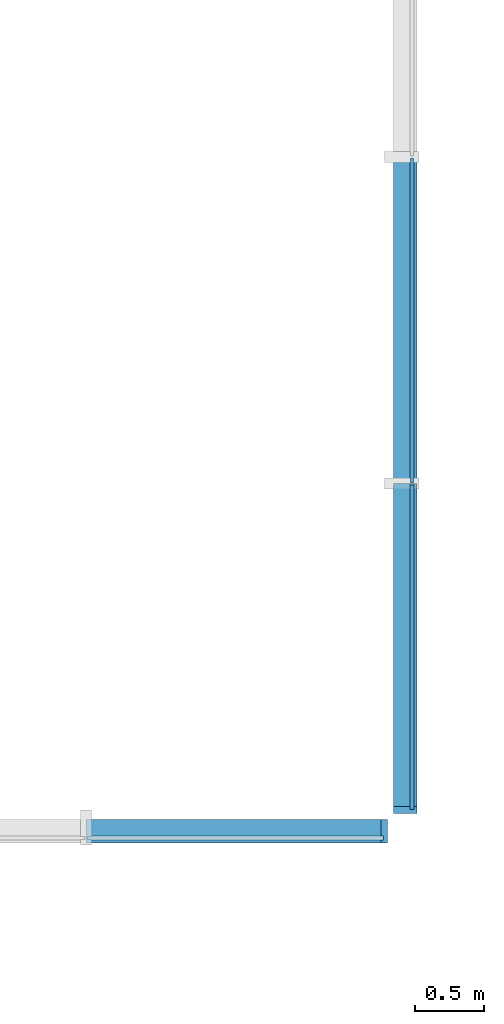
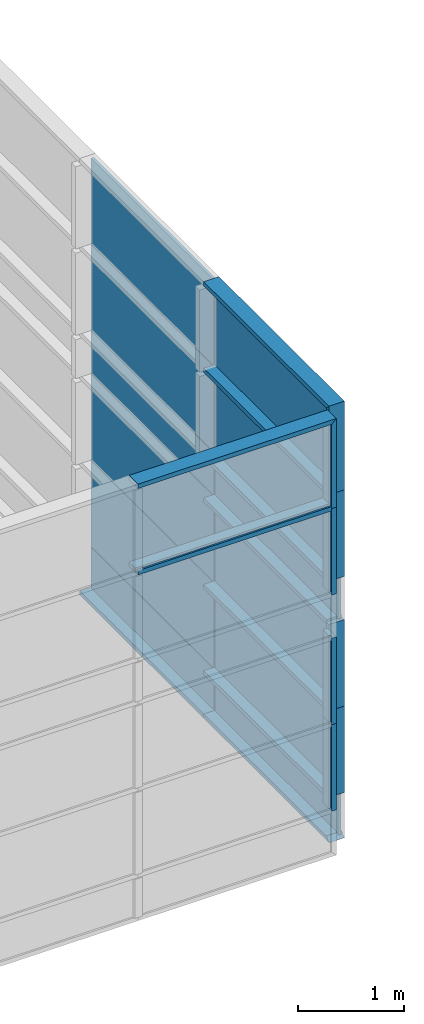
# One storey, part 7 of 19: 30 building element parts, 2 elements without a shape of their own.
"""IFC4 building model written with IfcOpenShell, lengths in millimetres."""

from ifc_helpers import new_model, entity, si_unit, converted_unit, derived_unit, direction, frame, origin_with_axes, place, context, subcontext, project, spatial, triangles, material, element, aggregate, save


model = new_model("IFC4")

# Units and contexts
model_context = context("Model", 3, precision=1e-05, world=origin_with_axes(), true_north=direction((0.0, 1.0)))
body_context = subcontext(model_context, "Body", "Model", "MODEL_VIEW")
ifc_project = project(units=[si_unit("LENGTHUNIT", "METRE", prefix="MILLI"), si_unit("AREAUNIT", "SQUARE_METRE"), si_unit("VOLUMEUNIT", "CUBIC_METRE"), converted_unit("PLANEANGLEUNIT", "DEGREE", entity("IfcLengthMeasure", 0.017453), si_unit("PLANEANGLEUNIT", "RADIAN"), dimensions=[0, 0, 0, 0, 0, 0, 0]), si_unit("SOLIDANGLEUNIT", "STERADIAN"), si_unit("MASSUNIT", "GRAM"), si_unit("TIMEUNIT", "SECOND"), si_unit("THERMODYNAMICTEMPERATUREUNIT", "DEGREE_CELSIUS"), si_unit("LUMINOUSINTENSITYUNIT", "LUMEN"), si_unit("POWERUNIT", "WATT"), derived_unit("THERMALTRANSMITTANCEUNIT", [(si_unit("POWERUNIT", "WATT"), 1), (si_unit("THERMODYNAMICTEMPERATUREUNIT", "KELVIN"), -1), (si_unit("AREAUNIT", "SQUARE_METRE"), -1)])], contexts=[model_context])

# Site, building, storey
site_placement = place(None, origin_with_axes())
site = spatial("IfcSite", under=ifc_project, at=site_placement, Name="Default Site", CompositionType="ELEMENT")
building_placement = place(site_placement, origin_with_axes())
building = spatial("IfcBuilding", under=site, at=building_placement, Name="Default Building", CompositionType="ELEMENT")
storey_placement = place(building_placement, frame((0.0, 0.0, 3000.0), z_axis=(0.0, 0.0, 1.0), x_axis=(1.0, 0.0, 0.0)))
storey = spatial("IfcBuildingStorey", under=building, at=storey_placement, Name="EG - Story", CompositionType="ELEMENT", Elevation=3000.0)

# Curtain wall, building element parts
curtain_wall_1_placement = place(storey_placement, origin_with_axes())
curtain_wall_1 = element("IfcCurtainWall", 1, at=curtain_wall_1_placement, inside=storey, Name="Fassade-008", PredefinedType="NOTDEFINED")
ifc_material_1 = material(Name="Normalglas")
building_element_part_1_placement = place(curtain_wall_1_placement, frame((76219.438321, -43896.324358, 0.0), z_axis=(0.0, 0.0, 1.0), x_axis=(1.0, 0.0, 0.0)))
building_element_part_1 = element("IfcBuildingElementPart", 2, at=building_element_part_1_placement, material=ifc_material_1, Name="Normalglas", PredefinedType="NOTDEFINED", context=body_context, shape_type="Tessellation", body=[
    triangles([(-14.999, -3515.973, 495.0), (15.0, -3515.973, 495.0), (15.0, -1185.324, 495.0), (-14.999, -1185.324, 495.0), (-14.999, -3515.973, 5.0), (15.0, -3515.973, 5.0), (15.0, -1185.324, 5.0), (-14.999, -1185.324, 5.0)], [[1, 2, 3], [1, 3, 4], [5, 6, 2], [5, 2, 1], [2, 6, 7], [2, 7, 3], [4, 3, 7], [4, 7, 8], [1, 4, 8], [1, 8, 5], [8, 7, 6], [8, 6, 5]], closed=False),
])
building_element_part_2_placement = place(curtain_wall_1_placement, frame((76219.438321, -43896.324358, 0.0), z_axis=(0.0, 0.0, 1.0), x_axis=(1.0, 0.0, 0.0)))
building_element_part_2 = element("IfcBuildingElementPart", 3, at=building_element_part_2_placement, material=ifc_material_1, Name="Normalglas", PredefinedType="NOTDEFINED", context=body_context, shape_type="Tessellation", body=[
    triangles([(-14.999, -5871.623, 495.0), (15.0, -5871.623, 495.0), (15.0, -3535.973, 495.0), (-14.999, -3535.973, 495.0), (-14.999, -5871.623, 5.0), (15.0, -5871.623, 5.0), (15.0, -3535.973, 5.0), (-14.999, -3535.973, 5.0)], [[1, 2, 3], [1, 3, 4], [5, 6, 2], [5, 2, 1], [2, 6, 7], [2, 7, 3], [4, 3, 7], [4, 7, 8], [1, 4, 8], [1, 8, 5], [8, 7, 6], [8, 6, 5]], closed=False),
])
building_element_part_3_placement = place(curtain_wall_1_placement, frame((76219.438321, -43896.324358, 0.0), z_axis=(0.0, 0.0, 1.0), x_axis=(1.0, 0.0, 0.0)))
building_element_part_3 = element("IfcBuildingElementPart", 4, at=building_element_part_3_placement, material=ifc_material_1, Name="Normalglas", PredefinedType="NOTDEFINED", context=body_context, shape_type="Tessellation", body=[
    triangles([(-14.999, -3515.973, 1495.0), (15.0, -3515.973, 1495.0), (15.0, -1185.324, 1495.0), (-14.999, -1185.324, 1495.0), (-14.999, -3515.973, 505.0), (15.0, -3515.973, 505.0), (15.0, -1185.324, 505.0), (-14.999, -1185.324, 505.0)], [[1, 2, 3], [1, 3, 4], [5, 6, 2], [5, 2, 1], [2, 6, 7], [2, 7, 3], [4, 3, 7], [4, 7, 8], [1, 4, 8], [1, 8, 5], [8, 7, 6], [8, 6, 5]], closed=False),
])
building_element_part_4_placement = place(curtain_wall_1_placement, frame((76219.438321, -43896.324358, 0.0), z_axis=(0.0, 0.0, 1.0), x_axis=(1.0, 0.0, 0.0)))
building_element_part_4 = element("IfcBuildingElementPart", 5, at=building_element_part_4_placement, material=ifc_material_1, Name="Normalglas", PredefinedType="NOTDEFINED", context=body_context, shape_type="Tessellation", body=[
    triangles([(-14.999, -5871.623, 1495.0), (15.0, -5871.623, 1495.0), (15.0, -3535.973, 1495.0), (-14.999, -3535.973, 1495.0), (-14.999, -5871.623, 505.0), (15.0, -5871.623, 505.0), (15.0, -3535.973, 505.0), (-14.999, -3535.973, 505.0)], [[1, 2, 3], [1, 3, 4], [5, 6, 2], [5, 2, 1], [2, 6, 7], [2, 7, 3], [4, 3, 7], [4, 7, 8], [1, 4, 8], [1, 8, 5], [8, 7, 6], [8, 6, 5]], closed=False),
])
building_element_part_5_placement = place(curtain_wall_1_placement, frame((76219.438321, -43896.324358, 0.0), z_axis=(0.0, 0.0, 1.0), x_axis=(1.0, 0.0, 0.0)))
building_element_part_5 = element("IfcBuildingElementPart", 6, at=building_element_part_5_placement, material=ifc_material_1, Name="Normalglas", PredefinedType="NOTDEFINED", context=body_context, shape_type="Tessellation", body=[
    triangles([(-14.999, -3515.973, 2495.0), (15.0, -3515.973, 2495.0), (15.0, -1185.324, 2495.0), (-14.999, -1185.324, 2495.0), (-14.999, -3515.973, 1505.0), (15.0, -3515.973, 1505.0), (15.0, -1185.324, 1505.0), (-14.999, -1185.324, 1505.0)], [[1, 2, 3], [1, 3, 4], [5, 6, 2], [5, 2, 1], [2, 6, 7], [2, 7, 3], [4, 3, 7], [4, 7, 8], [1, 4, 8], [1, 8, 5], [8, 7, 6], [8, 6, 5]], closed=False),
])
building_element_part_6_placement = place(curtain_wall_1_placement, frame((76219.438321, -43896.324358, 0.0), z_axis=(0.0, 0.0, 1.0), x_axis=(1.0, 0.0, 0.0)))
building_element_part_6 = element("IfcBuildingElementPart", 7, at=building_element_part_6_placement, material=ifc_material_1, Name="Normalglas", PredefinedType="NOTDEFINED", context=body_context, shape_type="Tessellation", body=[
    triangles([(-14.999, -5871.623, 2495.0), (15.0, -5871.623, 2495.0), (15.0, -3535.973, 2495.0), (-14.999, -3535.973, 2495.0), (-14.999, -5871.623, 1505.0), (15.0, -5871.623, 1505.0), (15.0, -3535.973, 1505.0), (-14.999, -3535.973, 1505.0)], [[1, 2, 3], [1, 3, 4], [5, 6, 2], [5, 2, 1], [2, 6, 7], [2, 7, 3], [4, 3, 7], [4, 7, 8], [1, 4, 8], [1, 8, 5], [8, 7, 6], [8, 6, 5]], closed=False),
])
building_element_part_7_placement = place(curtain_wall_1_placement, frame((76219.438321, -43896.324358, 0.0), z_axis=(0.0, 0.0, 1.0), x_axis=(1.0, 0.0, 0.0)))
building_element_part_7 = element("IfcBuildingElementPart", 8, at=building_element_part_7_placement, material=ifc_material_1, Name="Normalglas", PredefinedType="NOTDEFINED", context=body_context, shape_type="Tessellation", body=[
    triangles([(-14.999, -3515.973, 2995.0), (15.0, -3515.973, 2995.0), (15.0, -1185.324, 2995.0), (-14.999, -1185.324, 2995.0), (-14.999, -3515.973, 2505.0), (15.0, -3515.973, 2505.0), (15.0, -1185.324, 2505.0), (-14.999, -1185.324, 2505.0)], [[1, 2, 3], [1, 3, 4], [5, 6, 2], [5, 2, 1], [2, 6, 7], [2, 7, 3], [4, 3, 7], [4, 7, 8], [1, 4, 8], [1, 8, 5], [8, 7, 6], [8, 6, 5]], closed=False),
])
building_element_part_8_placement = place(curtain_wall_1_placement, frame((76219.438321, -43896.324358, 0.0), z_axis=(0.0, 0.0, 1.0), x_axis=(1.0, 0.0, 0.0)))
building_element_part_8 = element("IfcBuildingElementPart", 9, at=building_element_part_8_placement, material=ifc_material_1, Name="Normalglas", PredefinedType="NOTDEFINED", context=body_context, shape_type="Tessellation", body=[
    triangles([(-14.999, -5871.623, 2995.0), (15.0, -5871.623, 2995.0), (15.0, -3535.973, 2995.0), (-14.999, -3535.973, 2995.0), (-14.999, -5871.623, 2505.0), (15.0, -5871.623, 2505.0), (15.0, -3535.973, 2505.0), (-14.999, -3535.973, 2505.0)], [[1, 2, 3], [1, 3, 4], [5, 6, 2], [5, 2, 1], [2, 6, 7], [2, 7, 3], [4, 3, 7], [4, 7, 8], [1, 4, 8], [1, 8, 5], [8, 7, 6], [8, 6, 5]], closed=False),
])
building_element_part_9_placement = place(curtain_wall_1_placement, frame((76219.438321, -43896.324358, 0.0), z_axis=(0.0, 0.0, 1.0), x_axis=(1.0, 0.0, 0.0)))
building_element_part_9 = element("IfcBuildingElementPart", 10, at=building_element_part_9_placement, material=ifc_material_1, Name="Normalglas", PredefinedType="NOTDEFINED", context=body_context, shape_type="Tessellation", body=[
    triangles([(-14.999, -3515.973, 3995.0), (15.0, -3515.973, 3995.0), (15.0, -1185.324, 3995.0), (-14.999, -1185.324, 3995.0), (-14.999, -3515.973, 3005.0), (15.0, -3515.973, 3005.0), (15.0, -1185.324, 3005.0), (-14.999, -1185.324, 3005.0)], [[1, 2, 3], [1, 3, 4], [5, 6, 2], [5, 2, 1], [2, 6, 7], [2, 7, 3], [4, 3, 7], [4, 7, 8], [1, 4, 8], [1, 8, 5], [8, 7, 6], [8, 6, 5]], closed=False),
])
building_element_part_10_placement = place(curtain_wall_1_placement, frame((76219.438321, -43896.324358, 0.0), z_axis=(0.0, 0.0, 1.0), x_axis=(1.0, 0.0, 0.0)))
building_element_part_10 = element("IfcBuildingElementPart", 11, at=building_element_part_10_placement, material=ifc_material_1, Name="Normalglas", PredefinedType="NOTDEFINED", context=body_context, shape_type="Tessellation", body=[
    triangles([(-14.999, -3515.973, 4995.0), (15.0, -3515.973, 4995.0), (15.0, -1185.324, 4995.0), (-14.999, -1185.324, 4995.0), (-14.999, -3515.973, 4005.0), (15.0, -3515.973, 4005.0), (15.0, -1185.324, 4005.0), (-14.999, -1185.324, 4005.0)], [[1, 2, 3], [1, 3, 4], [5, 6, 2], [5, 2, 1], [2, 6, 7], [2, 7, 3], [4, 3, 7], [4, 7, 8], [1, 4, 8], [1, 8, 5], [8, 7, 6], [8, 6, 5]], closed=False),
])
building_element_part_11_placement = place(curtain_wall_1_placement, frame((76219.438321, -43896.324358, 0.0), z_axis=(0.0, 0.0, 1.0), x_axis=(1.0, 0.0, 0.0)))
building_element_part_11 = element("IfcBuildingElementPart", 12, at=building_element_part_11_placement, material=ifc_material_1, Name="Normalglas", PredefinedType="NOTDEFINED", context=body_context, shape_type="Tessellation", body=[
    triangles([(-14.999, -5871.623, 3995.0), (15.0, -5871.623, 3995.0), (15.0, -3535.973, 3995.0), (-14.999, -3535.973, 3995.0), (-14.999, -5871.623, 3005.0), (15.0, -5871.623, 3005.0), (15.0, -3535.973, 3005.0), (-14.999, -3535.973, 3005.0)], [[1, 2, 3], [1, 3, 4], [5, 6, 2], [5, 2, 1], [2, 6, 7], [2, 7, 3], [4, 3, 7], [4, 7, 8], [1, 4, 8], [1, 8, 5], [8, 7, 6], [8, 6, 5]], closed=False),
])
building_element_part_12_placement = place(curtain_wall_1_placement, frame((76219.438321, -43896.324358, 0.0), z_axis=(0.0, 0.0, 1.0), x_axis=(1.0, 0.0, 0.0)))
building_element_part_12 = element("IfcBuildingElementPart", 13, at=building_element_part_12_placement, material=ifc_material_1, Name="Normalglas", PredefinedType="NOTDEFINED", context=body_context, shape_type="Tessellation", body=[
    triangles([(-14.999, -5871.623, 4995.0), (15.0, -5871.623, 4995.0), (15.0, -3535.973, 4995.0), (-14.999, -3535.973, 4995.0), (-14.999, -5871.623, 4005.0), (15.0, -5871.623, 4005.0), (15.0, -3535.973, 4005.0), (-14.999, -3535.973, 4005.0)], [[1, 2, 3], [1, 3, 4], [5, 6, 2], [5, 2, 1], [2, 6, 7], [2, 7, 3], [4, 3, 7], [4, 7, 8], [1, 4, 8], [1, 8, 5], [8, 7, 6], [8, 6, 5]], closed=False),
])
ifc_material_2 = material(Name="Blech")
building_element_part_13_placement = place(curtain_wall_1_placement, frame((76219.438321, -43896.324358, 0.0), z_axis=(0.0, 0.0, 1.0), x_axis=(1.0, 0.0, 0.0)))
building_element_part_13 = element("IfcBuildingElementPart", 14, at=building_element_part_13_placement, material=ifc_material_2, Name="Blech", PredefinedType="NOTDEFINED", context=body_context, shape_type="Tessellation", body=[
    triangles([(-14.999, -3525.973, 25.0), (-132.999, -3525.973, 25.0), (-14.999, -3525.973, 5.0), (-132.999, -3525.973, -24.999), (15.0, -3525.973, 5.0), (35.0, -3525.973, -24.999), (35.0, -3525.973, 25.0), (15.0, -3525.973, 25.0), (-14.999, -1175.324, 5.0), (-14.999, -1175.324, 25.0), (-132.999, -1175.324, 25.0), (-132.999, -1175.324, -24.999), (35.0, -1175.324, -24.999), (35.0, -1175.324, 25.0), (15.0, -1175.324, 25.0), (15.0, -1175.324, 5.0)], [[1, 2, 3], [3, 2, 4], [3, 4, 5], [5, 4, 6], [5, 6, 7], [5, 7, 8], [3, 9, 10], [3, 10, 1], [10, 11, 2], [10, 2, 1], [11, 12, 4], [11, 4, 2], [12, 13, 6], [12, 6, 4], [13, 14, 7], [13, 7, 6], [8, 7, 14], [8, 14, 15], [15, 16, 5], [15, 5, 8], [5, 16, 9], [5, 9, 3], [16, 9, 12], [16, 12, 13], [16, 13, 14], [16, 14, 15], [11, 12, 9], [11, 9, 10]], closed=False),
])
building_element_part_14_placement = place(curtain_wall_1_placement, frame((76219.438321, -43896.324358, 0.0), z_axis=(0.0, 0.0, 1.0), x_axis=(1.0, 0.0, 0.0)))
building_element_part_14 = element("IfcBuildingElementPart", 15, at=building_element_part_14_placement, material=ifc_material_2, Name="Blech", PredefinedType="NOTDEFINED", context=body_context, shape_type="Tessellation", body=[
    triangles([(-14.999, -5851.623, 25.0), (-132.999, -5851.623, 25.0), (-14.999, -5871.623, 5.0), (-132.999, -5901.623, -24.999), (15.0, -5871.623, 5.0), (35.0, -5901.623, -24.999), (35.0, -5851.623, 25.0), (15.0, -5851.623, 25.0), (-14.999, -3525.973, 5.0), (-14.999, -3525.973, 25.0), (-132.999, -3525.973, 25.0), (-132.999, -3525.973, -24.999), (35.0, -3525.973, -24.999), (35.0, -3525.973, 25.0), (15.0, -3525.973, 25.0), (15.0, -3525.973, 5.0)], [[1, 2, 3], [3, 2, 4], [3, 4, 5], [5, 4, 6], [5, 6, 7], [5, 7, 8], [3, 9, 10], [3, 10, 1], [10, 11, 2], [10, 2, 1], [11, 12, 4], [11, 4, 2], [12, 13, 6], [12, 6, 4], [13, 14, 7], [13, 7, 6], [8, 7, 14], [8, 14, 15], [15, 16, 5], [15, 5, 8], [5, 16, 9], [5, 9, 3], [16, 9, 12], [16, 12, 13], [16, 13, 14], [16, 14, 15], [11, 12, 9], [11, 9, 10]], closed=False),
])
building_element_part_15_placement = place(curtain_wall_1_placement, frame((76219.438321, -43896.324358, 0.0), z_axis=(0.0, 0.0, 1.0), x_axis=(1.0, 0.0, 0.0)))
building_element_part_15 = element("IfcBuildingElementPart", 16, at=building_element_part_15_placement, material=ifc_material_2, Name="Blech", PredefinedType="NOTDEFINED", context=body_context, shape_type="Tessellation", body=[
    triangles([(15.0, -5851.623, 525.0), (35.0, -5851.623, 525.0), (15.0, -5851.623, 505.0), (15.0, -5851.623, 495.0), (-14.999, -5851.623, 505.0), (-132.999, -5851.623, 525.0), (-14.999, -5851.623, 525.0), (35.0, -5851.623, 475.0), (15.0, -5851.623, 475.0), (-14.999, -5851.623, 495.0), (-14.999, -5851.623, 475.0), (-132.999, -5851.623, 475.0), (-14.999, -3525.973, 495.0), (15.0, -3525.973, 495.0), (15.0, -3525.973, 475.0), (35.0, -3525.973, 475.0), (35.0, -3525.973, 525.0), (15.0, -3525.973, 525.0), (15.0, -3525.973, 505.0), (-14.999, -3525.973, 505.0), (-14.999, -3525.973, 525.0), (-132.999, -3525.973, 525.0), (-132.999, -3525.973, 475.0), (-14.999, -3525.973, 475.0)], [[1, 2, 3], [3, 2, 4], [3, 4, 5], [5, 4, 6], [5, 6, 7], [8, 9, 4], [8, 4, 2], [6, 4, 10], [6, 10, 11], [6, 11, 12], [10, 13, 14], [10, 14, 4], [4, 14, 15], [4, 15, 9], [15, 16, 8], [15, 8, 9], [8, 16, 17], [8, 17, 2], [18, 1, 2], [18, 2, 17], [1, 18, 19], [1, 19, 3], [5, 3, 19], [5, 19, 20], [7, 5, 20], [7, 20, 21], [7, 21, 22], [7, 22, 6], [6, 22, 23], [6, 23, 12], [11, 12, 23], [11, 23, 24], [11, 24, 13], [11, 13, 10], [21, 22, 20], [20, 22, 13], [20, 13, 19], [19, 13, 14], [19, 14, 17], [17, 14, 15], [17, 15, 16], [23, 24, 13], [23, 13, 22], [19, 17, 18]], closed=False),
])
building_element_part_16_placement = place(curtain_wall_1_placement, frame((76219.438321, -43896.324358, 0.0), z_axis=(0.0, 0.0, 1.0), x_axis=(1.0, 0.0, 0.0)))
building_element_part_16 = element("IfcBuildingElementPart", 17, at=building_element_part_16_placement, material=ifc_material_2, Name="Blech", PredefinedType="NOTDEFINED", context=body_context, shape_type="Tessellation", body=[
    triangles([(35.0, -5901.623, 1500.0), (35.0, -5851.623, 1500.0), (15.0, -5851.623, 1500.0), (15.0, -5871.623, 1500.0), (-14.999, -5871.623, 1500.0), (-132.999, -5851.623, 1500.0), (-132.999, -5901.623, 1500.0), (-14.999, -5851.623, 1500.0), (-14.999, -5871.623, 500.0), (-14.999, -5851.623, 500.0), (-132.999, -5851.623, 500.0), (-132.999, -5901.623, 500.0), (35.0, -5901.623, 500.0), (35.0, -5851.623, 500.0), (15.0, -5851.623, 500.0), (15.0, -5871.623, 500.0)], [[1, 2, 3], [1, 3, 4], [1, 4, 5], [1, 5, 6], [1, 6, 7], [8, 6, 5], [5, 9, 10], [5, 10, 8], [10, 11, 6], [10, 6, 8], [11, 12, 7], [11, 7, 6], [12, 13, 1], [12, 1, 7], [13, 14, 2], [13, 2, 1], [3, 2, 14], [3, 14, 15], [15, 16, 4], [15, 4, 3], [4, 16, 9], [4, 9, 5], [15, 16, 13], [13, 16, 9], [13, 9, 11], [11, 9, 10], [13, 11, 12], [15, 13, 14]], closed=False),
])
building_element_part_17_placement = place(curtain_wall_1_placement, frame((76219.438321, -43896.324358, 0.0), z_axis=(0.0, 0.0, 1.0), x_axis=(1.0, 0.0, 0.0)))
building_element_part_17 = element("IfcBuildingElementPart", 18, at=building_element_part_17_placement, material=ifc_material_2, Name="Blech", PredefinedType="NOTDEFINED", context=body_context, shape_type="Tessellation", body=[
    triangles([(15.0, -5851.623, 1525.0), (35.0, -5851.623, 1525.0), (15.0, -5851.623, 1505.0), (15.0, -5851.623, 1495.0), (-14.999, -5851.623, 1505.0), (-132.999, -5851.623, 1525.0), (-14.999, -5851.623, 1525.0), (35.0, -5851.623, 1475.0), (15.0, -5851.623, 1475.0), (-14.999, -5851.623, 1495.0), (-14.999, -5851.623, 1475.0), (-132.999, -5851.623, 1475.0), (-14.999, -3525.973, 1495.0), (15.0, -3525.973, 1495.0), (15.0, -3525.973, 1475.0), (35.0, -3525.973, 1475.0), (35.0, -3525.973, 1525.0), (15.0, -3525.973, 1525.0), (15.0, -3525.973, 1505.0), (-14.999, -3525.973, 1505.0), (-14.999, -3525.973, 1525.0), (-132.999, -3525.973, 1525.0), (-132.999, -3525.973, 1475.0), (-14.999, -3525.973, 1475.0)], [[1, 2, 3], [3, 2, 4], [3, 4, 5], [5, 4, 6], [5, 6, 7], [8, 9, 4], [8, 4, 2], [6, 4, 10], [6, 10, 11], [6, 11, 12], [10, 13, 14], [10, 14, 4], [4, 14, 15], [4, 15, 9], [15, 16, 8], [15, 8, 9], [8, 16, 17], [8, 17, 2], [18, 1, 2], [18, 2, 17], [1, 18, 19], [1, 19, 3], [5, 3, 19], [5, 19, 20], [7, 5, 20], [7, 20, 21], [7, 21, 22], [7, 22, 6], [6, 22, 23], [6, 23, 12], [11, 12, 23], [11, 23, 24], [11, 24, 13], [11, 13, 10], [21, 22, 20], [20, 22, 13], [20, 13, 19], [19, 13, 14], [19, 14, 17], [17, 14, 15], [17, 15, 16], [23, 24, 13], [23, 13, 22], [19, 17, 18]], closed=False),
])
building_element_part_18_placement = place(curtain_wall_1_placement, frame((76219.438321, -43896.324358, 0.0), z_axis=(0.0, 0.0, 1.0), x_axis=(1.0, 0.0, 0.0)))
building_element_part_18 = element("IfcBuildingElementPart", 19, at=building_element_part_18_placement, material=ifc_material_2, Name="Blech", PredefinedType="NOTDEFINED", context=body_context, shape_type="Tessellation", body=[
    triangles([(35.0, -5901.623, 2500.0), (35.0, -5851.623, 2500.0), (15.0, -5851.623, 2500.0), (15.0, -5871.623, 2500.0), (-14.999, -5871.623, 2500.0), (-132.999, -5851.623, 2500.0), (-132.999, -5901.623, 2500.0), (-14.999, -5851.623, 2500.0), (-14.999, -5871.623, 1500.0), (-14.999, -5851.623, 1500.0), (-132.999, -5851.623, 1500.0), (-132.999, -5901.623, 1500.0), (35.0, -5901.623, 1500.0), (35.0, -5851.623, 1500.0), (15.0, -5851.623, 1500.0), (15.0, -5871.623, 1500.0)], [[1, 2, 3], [1, 3, 4], [1, 4, 5], [1, 5, 6], [1, 6, 7], [8, 6, 5], [5, 9, 10], [5, 10, 8], [10, 11, 6], [10, 6, 8], [11, 12, 7], [11, 7, 6], [12, 13, 1], [12, 1, 7], [13, 14, 2], [13, 2, 1], [3, 2, 14], [3, 14, 15], [15, 16, 4], [15, 4, 3], [4, 16, 9], [4, 9, 5], [15, 16, 13], [13, 16, 9], [13, 9, 11], [11, 9, 10], [13, 11, 12], [15, 13, 14]], closed=False),
])
building_element_part_19_placement = place(curtain_wall_1_placement, frame((76219.438321, -43896.324358, 0.0), z_axis=(0.0, 0.0, 1.0), x_axis=(1.0, 0.0, 0.0)))
building_element_part_19 = element("IfcBuildingElementPart", 20, at=building_element_part_19_placement, material=ifc_material_2, Name="Blech", PredefinedType="NOTDEFINED", context=body_context, shape_type="Tessellation", body=[
    triangles([(15.0, -5851.623, 2525.0), (35.0, -5851.623, 2525.0), (15.0, -5851.623, 2505.0), (15.0, -5851.623, 2495.0), (-14.999, -5851.623, 2505.0), (-132.999, -5851.623, 2525.0), (-14.999, -5851.623, 2525.0), (35.0, -5851.623, 2475.0), (15.0, -5851.623, 2475.0), (-14.999, -5851.623, 2495.0), (-14.999, -5851.623, 2475.0), (-132.999, -5851.623, 2475.0), (-14.999, -3525.973, 2495.0), (15.0, -3525.973, 2495.0), (15.0, -3525.973, 2475.0), (35.0, -3525.973, 2475.0), (35.0, -3525.973, 2525.0), (15.0, -3525.973, 2525.0), (15.0, -3525.973, 2505.0), (-14.999, -3525.973, 2505.0), (-14.999, -3525.973, 2525.0), (-132.999, -3525.973, 2525.0), (-132.999, -3525.973, 2475.0), (-14.999, -3525.973, 2475.0)], [[1, 2, 3], [3, 2, 4], [3, 4, 5], [5, 4, 6], [5, 6, 7], [8, 9, 4], [8, 4, 2], [6, 4, 10], [6, 10, 11], [6, 11, 12], [10, 13, 14], [10, 14, 4], [4, 14, 15], [4, 15, 9], [15, 16, 8], [15, 8, 9], [8, 16, 17], [8, 17, 2], [18, 1, 2], [18, 2, 17], [1, 18, 19], [1, 19, 3], [5, 3, 19], [5, 19, 20], [7, 5, 20], [7, 20, 21], [7, 21, 22], [7, 22, 6], [6, 22, 23], [6, 23, 12], [11, 12, 23], [11, 23, 24], [11, 24, 13], [11, 13, 10], [21, 22, 20], [20, 22, 13], [20, 13, 19], [19, 13, 14], [19, 14, 17], [17, 14, 15], [17, 15, 16], [23, 24, 13], [23, 13, 22], [19, 17, 18]], closed=False),
])
building_element_part_20_placement = place(curtain_wall_1_placement, frame((76219.438321, -43896.324358, 0.0), z_axis=(0.0, 0.0, 1.0), x_axis=(1.0, 0.0, 0.0)))
building_element_part_20 = element("IfcBuildingElementPart", 21, at=building_element_part_20_placement, material=ifc_material_2, Name="Blech", PredefinedType="NOTDEFINED", context=body_context, shape_type="Tessellation", body=[
    triangles([(35.0, -5901.623, 4000.0), (35.0, -5851.623, 4000.0), (15.0, -5851.623, 4000.0), (15.0, -5871.623, 4000.0), (-14.999, -5871.623, 4000.0), (-132.999, -5851.623, 4000.0), (-132.999, -5901.623, 4000.0), (-14.999, -5851.623, 4000.0), (-14.999, -5871.623, 3000.0), (-14.999, -5851.623, 3000.0), (-132.999, -5851.623, 3000.0), (-132.999, -5901.623, 3000.0), (35.0, -5901.623, 3000.0), (35.0, -5851.623, 3000.0), (15.0, -5851.623, 3000.0), (15.0, -5871.623, 3000.0)], [[1, 2, 3], [1, 3, 4], [1, 4, 5], [1, 5, 6], [1, 6, 7], [8, 6, 5], [5, 9, 10], [5, 10, 8], [10, 11, 6], [10, 6, 8], [11, 12, 7], [11, 7, 6], [12, 13, 1], [12, 1, 7], [13, 14, 2], [13, 2, 1], [3, 2, 14], [3, 14, 15], [15, 16, 4], [15, 4, 3], [4, 16, 9], [4, 9, 5], [15, 16, 13], [13, 16, 9], [13, 9, 11], [11, 9, 10], [13, 11, 12], [15, 13, 14]], closed=False),
])
building_element_part_21_placement = place(curtain_wall_1_placement, frame((76219.438321, -43896.324358, 0.0), z_axis=(0.0, 0.0, 1.0), x_axis=(1.0, 0.0, 0.0)))
building_element_part_21 = element("IfcBuildingElementPart", 22, at=building_element_part_21_placement, material=ifc_material_2, Name="Blech", PredefinedType="NOTDEFINED", context=body_context, shape_type="Tessellation", body=[
    triangles([(15.0, -5871.623, 4995.0), (-14.999, -5871.623, 4995.0), (-132.999, -5901.623, 5025.0), (35.0, -5901.623, 5025.0), (35.0, -5851.623, 4975.0), (15.0, -5851.623, 4975.0), (-14.999, -5851.623, 4975.0), (-132.999, -5851.623, 4975.0), (-14.999, -5871.623, 4000.0), (-14.999, -5851.623, 4000.0), (-132.999, -5851.623, 4000.0), (-132.999, -5901.623, 4000.0), (35.0, -5901.623, 4000.0), (35.0, -5851.623, 4000.0), (15.0, -5851.623, 4000.0), (15.0, -5871.623, 4000.0)], [[1, 2, 3], [1, 3, 4], [1, 4, 5], [1, 5, 6], [7, 8, 3], [7, 3, 2], [2, 9, 10], [2, 10, 7], [10, 11, 8], [10, 8, 7], [11, 12, 3], [11, 3, 8], [12, 13, 4], [12, 4, 3], [13, 14, 5], [13, 5, 4], [6, 5, 14], [6, 14, 15], [15, 16, 1], [15, 1, 6], [1, 16, 9], [1, 9, 2], [15, 16, 13], [13, 16, 9], [13, 9, 11], [11, 9, 10], [13, 11, 12], [15, 13, 14]], closed=False),
])
building_element_part_22_placement = place(curtain_wall_1_placement, frame((76219.438321, -43896.324358, 0.0), z_axis=(0.0, 0.0, 1.0), x_axis=(1.0, 0.0, 0.0)))
building_element_part_22 = element("IfcBuildingElementPart", 23, at=building_element_part_22_placement, material=ifc_material_2, Name="Blech", PredefinedType="NOTDEFINED", context=body_context, shape_type="Tessellation", body=[
    triangles([(15.0, -5851.623, 3025.0), (35.0, -5851.623, 3025.0), (15.0, -5851.623, 3005.0), (15.0, -5851.623, 2995.0), (-14.999, -5851.623, 3005.0), (-132.999, -5851.623, 3025.0), (-14.999, -5851.623, 3025.0), (35.0, -5851.623, 2975.0), (15.0, -5851.623, 2975.0), (-14.999, -5851.623, 2995.0), (-14.999, -5851.623, 2975.0), (-132.999, -5851.623, 2975.0), (-14.999, -3525.973, 2995.0), (15.0, -3525.973, 2995.0), (15.0, -3525.973, 2975.0), (35.0, -3525.973, 2975.0), (35.0, -3525.973, 3025.0), (15.0, -3525.973, 3025.0), (15.0, -3525.973, 3005.0), (-14.999, -3525.973, 3005.0), (-14.999, -3525.973, 3025.0), (-132.999, -3525.973, 3025.0), (-132.999, -3525.973, 2975.0), (-14.999, -3525.973, 2975.0)], [[1, 2, 3], [3, 2, 4], [3, 4, 5], [5, 4, 6], [5, 6, 7], [8, 9, 4], [8, 4, 2], [6, 4, 10], [6, 10, 11], [6, 11, 12], [10, 13, 14], [10, 14, 4], [4, 14, 15], [4, 15, 9], [15, 16, 8], [15, 8, 9], [8, 16, 17], [8, 17, 2], [18, 1, 2], [18, 2, 17], [1, 18, 19], [1, 19, 3], [5, 3, 19], [5, 19, 20], [7, 5, 20], [7, 20, 21], [7, 21, 22], [7, 22, 6], [6, 22, 23], [6, 23, 12], [11, 12, 23], [11, 23, 24], [11, 24, 13], [11, 13, 10], [21, 22, 20], [20, 22, 13], [20, 13, 19], [19, 13, 14], [19, 14, 17], [17, 14, 15], [17, 15, 16], [23, 24, 13], [23, 13, 22], [19, 17, 18]], closed=False),
])
building_element_part_23_placement = place(curtain_wall_1_placement, frame((76219.438321, -43896.324358, 0.0), z_axis=(0.0, 0.0, 1.0), x_axis=(1.0, 0.0, 0.0)))
building_element_part_23 = element("IfcBuildingElementPart", 24, at=building_element_part_23_placement, material=ifc_material_2, Name="Blech", PredefinedType="NOTDEFINED", context=body_context, shape_type="Tessellation", body=[
    triangles([(15.0, -5851.623, 4025.0), (35.0, -5851.623, 4025.0), (15.0, -5851.623, 4005.0), (15.0, -5851.623, 3995.0), (-14.999, -5851.623, 4005.0), (-132.999, -5851.623, 4025.0), (-14.999, -5851.623, 4025.0), (35.0, -5851.623, 3975.0), (15.0, -5851.623, 3975.0), (-14.999, -5851.623, 3995.0), (-14.999, -5851.623, 3975.0), (-132.999, -5851.623, 3975.0), (-14.999, -3525.973, 3995.0), (15.0, -3525.973, 3995.0), (15.0, -3525.973, 3975.0), (35.0, -3525.973, 3975.0), (35.0, -3525.973, 4025.0), (15.0, -3525.973, 4025.0), (15.0, -3525.973, 4005.0), (-14.999, -3525.973, 4005.0), (-14.999, -3525.973, 4025.0), (-132.999, -3525.973, 4025.0), (-132.999, -3525.973, 3975.0), (-14.999, -3525.973, 3975.0)], [[1, 2, 3], [3, 2, 4], [3, 4, 5], [5, 4, 6], [5, 6, 7], [8, 9, 4], [8, 4, 2], [6, 4, 10], [6, 10, 11], [6, 11, 12], [10, 13, 14], [10, 14, 4], [4, 14, 15], [4, 15, 9], [15, 16, 8], [15, 8, 9], [8, 16, 17], [8, 17, 2], [18, 1, 2], [18, 2, 17], [1, 18, 19], [1, 19, 3], [5, 3, 19], [5, 19, 20], [7, 5, 20], [7, 20, 21], [7, 21, 22], [7, 22, 6], [6, 22, 23], [6, 23, 12], [11, 12, 23], [11, 23, 24], [11, 24, 13], [11, 13, 10], [21, 22, 20], [20, 22, 13], [20, 13, 19], [19, 13, 14], [19, 14, 17], [17, 14, 15], [17, 15, 16], [23, 24, 13], [23, 13, 22], [19, 17, 18]], closed=False),
])
building_element_part_24_placement = place(curtain_wall_1_placement, frame((76219.438321, -43896.324358, 0.0), z_axis=(0.0, 0.0, 1.0), x_axis=(1.0, 0.0, 0.0)))
building_element_part_24 = element("IfcBuildingElementPart", 25, at=building_element_part_24_placement, material=ifc_material_2, Name="Blech", PredefinedType="NOTDEFINED", context=body_context, shape_type="Tessellation", body=[
    triangles([(15.0, -5871.623, 4995.0), (-14.999, -5871.623, 4995.0), (-132.999, -5901.623, 5025.0), (35.0, -5901.623, 5025.0), (35.0, -5851.623, 4975.0), (15.0, -5851.623, 4975.0), (-14.999, -5851.623, 4975.0), (-132.999, -5851.623, 4975.0), (-14.999, -3525.973, 4995.0), (15.0, -3525.973, 4995.0), (15.0, -3525.973, 4975.0), (35.0, -3525.973, 4975.0), (35.0, -3525.973, 5025.0), (-132.999, -3525.973, 5025.0), (-132.999, -3525.973, 4975.0), (-14.999, -3525.973, 4975.0)], [[1, 2, 3], [1, 3, 4], [1, 4, 5], [1, 5, 6], [7, 8, 3], [7, 3, 2], [1, 2, 9], [1, 9, 10], [11, 6, 1], [11, 1, 10], [6, 11, 12], [6, 12, 5], [13, 4, 5], [13, 5, 12], [14, 3, 4], [14, 4, 13], [15, 8, 3], [15, 3, 14], [16, 7, 8], [16, 8, 15], [2, 7, 16], [2, 16, 9], [10, 9, 14], [10, 14, 13], [10, 13, 12], [10, 12, 11], [16, 15, 14], [16, 14, 9]], closed=False),
])
aggregate(curtain_wall_1, [building_element_part_1, building_element_part_2, building_element_part_3, building_element_part_4, building_element_part_5, building_element_part_6, building_element_part_7, building_element_part_8, building_element_part_9, building_element_part_10, building_element_part_11, building_element_part_12, building_element_part_13, building_element_part_14, building_element_part_15, building_element_part_16, building_element_part_17, building_element_part_18, building_element_part_19, building_element_part_20, building_element_part_21, building_element_part_22, building_element_part_23, building_element_part_24])

curtain_wall_2_placement = place(storey_placement, origin_with_axes())
curtain_wall_2 = element("IfcCurtainWall", 26, at=curtain_wall_2_placement, inside=storey, Name="Fassade-010", PredefinedType="NOTDEFINED")
building_element_part_25_placement = place(curtain_wall_2_placement, frame((70654.39916, -49972.947966, -4.5e-05), z_axis=(0.0, 0.0, 1.0), x_axis=(1.0, 0.0, 0.0)))
building_element_part_25 = element("IfcBuildingElementPart", 27, at=building_element_part_25_placement, material=ifc_material_2, Name="Blech", PredefinedType="NOTDEFINED", context=body_context, shape_type="Tessellation", body=[
    triangles([(5360.039, -14.999, 1500.0), (5360.039, 15.0, 1500.0), (5390.039, 133.0, 1500.0), (5390.039, -34.999, 1500.0), (5340.039, -34.999, 1500.0), (5340.039, -14.999, 1500.0), (5340.039, 15.0, 1500.0), (5340.039, 133.0, 1500.0), (5360.039, 15.0, 500.0), (5360.039, -14.999, 500.0), (5340.039, -14.999, 500.0), (5340.039, -34.999, 500.0), (5390.039, -34.999, 500.0), (5390.039, 133.0, 500.0), (5340.039, 133.0, 500.0), (5340.039, 15.0, 500.0)], [[1, 2, 3], [1, 3, 4], [1, 4, 5], [1, 5, 6], [7, 8, 3], [7, 3, 2], [1, 2, 9], [1, 9, 10], [11, 6, 1], [11, 1, 10], [6, 11, 12], [6, 12, 5], [13, 4, 5], [13, 5, 12], [14, 3, 4], [14, 4, 13], [15, 8, 3], [15, 3, 14], [16, 7, 8], [16, 8, 15], [2, 7, 16], [2, 16, 9], [10, 9, 14], [10, 14, 13], [10, 13, 12], [10, 12, 11], [16, 15, 14], [16, 14, 9]], closed=False),
])
building_element_part_26_placement = place(curtain_wall_2_placement, frame((70654.39916, -49972.947966, -4.5e-05), z_axis=(0.0, 0.0, 1.0), x_axis=(1.0, 0.0, 0.0)))
building_element_part_26 = element("IfcBuildingElementPart", 28, at=building_element_part_26_placement, material=ifc_material_2, Name="Blech", PredefinedType="NOTDEFINED", context=body_context, shape_type="Tessellation", body=[
    triangles([(5360.039, -14.999, 2500.0), (5360.039, 15.0, 2500.0), (5390.039, 133.0, 2500.0), (5390.039, -34.999, 2500.0), (5340.039, -34.999, 2500.0), (5340.039, -14.999, 2500.0), (5340.039, 15.0, 2500.0), (5340.039, 133.0, 2500.0), (5360.039, 15.0, 1500.0), (5360.039, -14.999, 1500.0), (5340.039, -14.999, 1500.0), (5340.039, -34.999, 1500.0), (5390.039, -34.999, 1500.0), (5390.039, 133.0, 1500.0), (5340.039, 133.0, 1500.0), (5340.039, 15.0, 1500.0)], [[1, 2, 3], [1, 3, 4], [1, 4, 5], [1, 5, 6], [7, 8, 3], [7, 3, 2], [1, 2, 9], [1, 9, 10], [11, 6, 1], [11, 1, 10], [6, 11, 12], [6, 12, 5], [13, 4, 5], [13, 5, 12], [14, 3, 4], [14, 4, 13], [15, 8, 3], [15, 3, 14], [16, 7, 8], [16, 8, 15], [2, 7, 16], [2, 16, 9], [10, 9, 14], [10, 14, 13], [10, 13, 12], [10, 12, 11], [16, 15, 14], [16, 14, 9]], closed=False),
])
building_element_part_27_placement = place(curtain_wall_2_placement, frame((70654.39916, -49972.947966, -4.5e-05), z_axis=(0.0, 0.0, 1.0), x_axis=(1.0, 0.0, 0.0)))
building_element_part_27 = element("IfcBuildingElementPart", 29, at=building_element_part_27_placement, material=ifc_material_2, Name="Blech", PredefinedType="NOTDEFINED", context=body_context, shape_type="Tessellation", body=[
    triangles([(5360.039, -14.999, 4000.0), (5360.039, 15.0, 4000.0), (5390.039, 133.0, 4000.0), (5390.039, -34.999, 4000.0), (5340.039, -34.999, 4000.0), (5340.039, -14.999, 4000.0), (5340.039, 15.0, 4000.0), (5340.039, 133.0, 4000.0), (5360.039, 15.0, 3000.0), (5360.039, -14.999, 3000.0), (5340.039, -14.999, 3000.0), (5340.039, -34.999, 3000.0), (5390.039, -34.999, 3000.0), (5390.039, 133.0, 3000.0), (5340.039, 133.0, 3000.0), (5340.039, 15.0, 3000.0)], [[1, 2, 3], [1, 3, 4], [1, 4, 5], [1, 5, 6], [7, 8, 3], [7, 3, 2], [1, 2, 9], [1, 9, 10], [11, 6, 1], [11, 1, 10], [6, 11, 12], [6, 12, 5], [13, 4, 5], [13, 5, 12], [14, 3, 4], [14, 4, 13], [15, 8, 3], [15, 3, 14], [16, 7, 8], [16, 8, 15], [2, 7, 16], [2, 16, 9], [10, 9, 14], [10, 14, 13], [10, 13, 12], [10, 12, 11], [16, 15, 14], [16, 14, 9]], closed=False),
])
building_element_part_28_placement = place(curtain_wall_2_placement, frame((70654.39916, -49972.947966, -4.5e-05), z_axis=(0.0, 0.0, 1.0), x_axis=(1.0, 0.0, 0.0)))
building_element_part_28 = element("IfcBuildingElementPart", 30, at=building_element_part_28_placement, material=ifc_material_2, Name="Blech", PredefinedType="NOTDEFINED", context=body_context, shape_type="Tessellation", body=[
    triangles([(5340.039, 133.0, 4025.0), (5340.039, 15.0, 4025.0), (5340.039, 133.0, 3975.0), (5340.039, 15.0, 4005.0), (5340.039, 15.0, 3995.0), (5340.039, -14.999, 4005.0), (5340.039, -14.999, 3995.0), (5340.039, -14.999, 3975.0), (5340.039, -14.999, 4025.0), (5340.039, -34.999, 4025.0), (5340.039, -34.999, 3975.0), (5340.039, 15.0, 3975.0), (3219.023, 15.0, 3995.0), (3219.023, 15.0, 3975.0), (3219.023, 133.0, 3975.0), (3219.023, 133.0, 4025.0), (3219.023, 15.0, 4025.0), (3219.023, 15.0, 4005.0), (3219.023, -14.999, 4005.0), (3219.023, -14.999, 4025.0), (3219.023, -34.999, 4025.0), (3219.023, -34.999, 3975.0), (3219.023, -14.999, 3975.0), (3219.023, -14.999, 3995.0)], [[1, 2, 3], [3, 2, 4], [3, 4, 5], [5, 4, 6], [5, 6, 7], [8, 9, 10], [8, 10, 11], [3, 5, 12], [12, 5, 13], [12, 13, 14], [12, 14, 15], [12, 15, 3], [1, 3, 15], [1, 15, 16], [2, 1, 16], [2, 16, 17], [2, 17, 18], [2, 18, 4], [4, 18, 19], [4, 19, 6], [9, 6, 19], [9, 19, 20], [20, 21, 10], [20, 10, 9], [11, 10, 21], [11, 21, 22], [23, 8, 11], [23, 11, 22], [7, 8, 23], [7, 23, 24], [5, 7, 24], [5, 24, 13], [15, 14, 16], [16, 14, 13], [16, 13, 18], [18, 13, 24], [18, 24, 19], [20, 23, 22], [20, 22, 21], [16, 18, 17]], closed=False),
])
building_element_part_29_placement = place(curtain_wall_2_placement, frame((70654.39916, -49972.947966, -4.5e-05), z_axis=(0.0, 0.0, 1.0), x_axis=(1.0, 0.0, 0.0)))
building_element_part_29 = element("IfcBuildingElementPart", 31, at=building_element_part_29_placement, material=ifc_material_2, Name="Blech", PredefinedType="NOTDEFINED", context=body_context, shape_type="Tessellation", body=[
    triangles([(5340.039, 15.0, 4975.0), (5340.039, 133.0, 4975.0), (5360.039, 15.0, 4995.0), (5390.039, 133.0, 5025.0), (5360.039, -14.999, 4995.0), (5390.039, -34.999, 5025.0), (5340.039, -14.999, 4975.0), (5340.039, -34.999, 4975.0), (5360.039, 15.0, 4000.0), (5360.039, -14.999, 4000.0), (5340.039, -14.999, 4000.0), (5340.039, -34.999, 4000.0), (5390.039, -34.999, 4000.0), (5390.039, 133.0, 4000.0), (5340.039, 133.0, 4000.0), (5340.039, 15.0, 4000.0)], [[1, 2, 3], [3, 2, 4], [3, 4, 5], [5, 4, 6], [5, 6, 7], [7, 6, 8], [5, 3, 9], [5, 9, 10], [11, 7, 5], [11, 5, 10], [7, 11, 12], [7, 12, 8], [13, 6, 8], [13, 8, 12], [14, 4, 6], [14, 6, 13], [15, 2, 4], [15, 4, 14], [16, 1, 2], [16, 2, 15], [3, 1, 16], [3, 16, 9], [10, 9, 14], [10, 14, 13], [10, 13, 12], [10, 12, 11], [16, 15, 14], [16, 14, 9]], closed=False),
])
building_element_part_30_placement = place(curtain_wall_2_placement, frame((70654.39916, -49972.947966, -4.5e-05), z_axis=(0.0, 0.0, 1.0), x_axis=(1.0, 0.0, 0.0)))
building_element_part_30 = element("IfcBuildingElementPart", 32, at=building_element_part_30_placement, material=ifc_material_2, Name="Blech", PredefinedType="NOTDEFINED", context=body_context, shape_type="Tessellation", body=[
    triangles([(5340.039, 15.0, 4975.0), (5340.039, 133.0, 4975.0), (5360.039, 15.0, 4995.0), (5390.039, 133.0, 5025.0), (5360.039, -14.999, 4995.0), (5390.039, -34.999, 5025.0), (5340.039, -14.999, 4975.0), (5340.039, -34.999, 4975.0), (3219.023, 15.0, 4995.0), (3219.023, 15.0, 4975.0), (3219.023, 133.0, 4975.0), (3219.023, 133.0, 5025.0), (3219.023, -34.999, 5025.0), (3219.023, -34.999, 4975.0), (3219.023, -14.999, 4975.0), (3219.023, -14.999, 4995.0)], [[1, 2, 3], [3, 2, 4], [3, 4, 5], [5, 4, 6], [5, 6, 7], [7, 6, 8], [3, 9, 10], [3, 10, 1], [10, 11, 2], [10, 2, 1], [11, 12, 4], [11, 4, 2], [12, 13, 6], [12, 6, 4], [13, 14, 8], [13, 8, 6], [7, 8, 14], [7, 14, 15], [15, 16, 5], [15, 5, 7], [5, 16, 9], [5, 9, 3], [10, 11, 9], [9, 11, 12], [9, 12, 16], [16, 12, 13], [16, 13, 15], [15, 13, 14]], closed=False),
])
aggregate(curtain_wall_2, [building_element_part_25, building_element_part_26, building_element_part_27, building_element_part_28, building_element_part_29, building_element_part_30])

save(model, "model.ifc")
